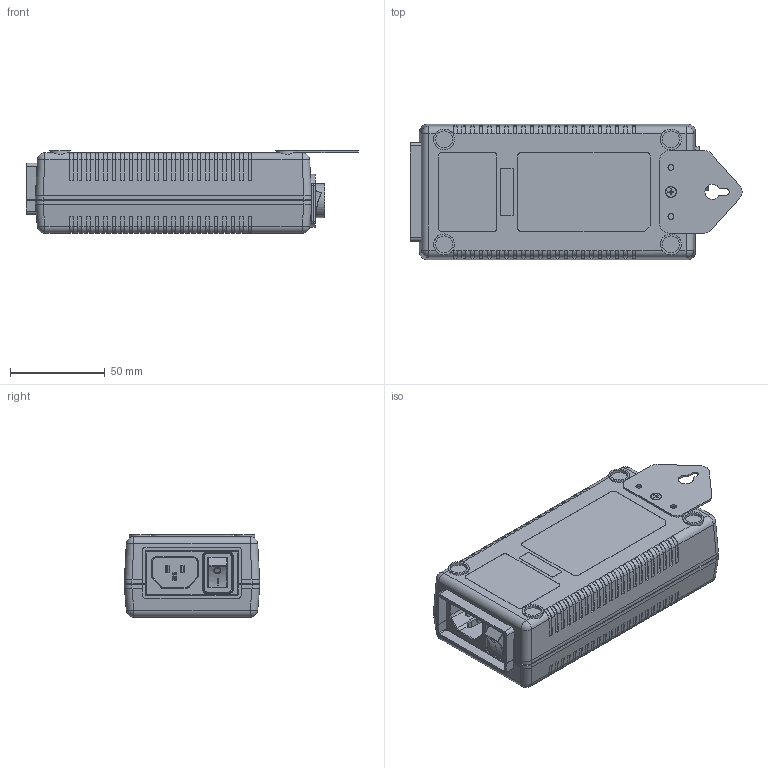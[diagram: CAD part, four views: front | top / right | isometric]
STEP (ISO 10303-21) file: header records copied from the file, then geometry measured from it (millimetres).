
FILE_DESCRIPTION (( 'STEP AP214' ), '1' );
FILE_NAME ('CLT-45.STEP', '2026-02-09T01:35:27', ( '' ), ( '' ), 'SwSTEP 2.0', 'SolidWorks 2024', '' );
FILE_SCHEMA (( 'AUTOMOTIVE_DESIGN' ));
Length unit declared in the file: millimetre
Products named in the file (1): CLT-45
Bounding box: 175.6 x 71.5 x 43.6 mm (x, y, z)
Volume: 103622.6 mm3; surface area: 89784.6 mm2
Topology: 7 solids, 7 shells, 1333 faces, 3769 edges, 2466 vertices
Faces by surface type: plane 856, cylinder 401, sphere 31, torus 22, bspline 20, cone 3
Full cylindrical faces by diameter (mm): 2 x5, 2.387 x1, 2.4 x4, 2.675 x1, 3 x2, 3.1 x2, 5.5 x1, 9 x4, 11 x4, 14.5 x1, 16 x1, 18 x1
Entity records: 58624 total; most frequent: CARTESIAN_POINT 9249, ORIENTED_EDGE 7392, DIRECTION 7037, EDGE_CURVE 3696, VECTOR 2767, LINE 2767, VERTEX_POINT 2441, AXIS2_PLACEMENT_3D 2135
